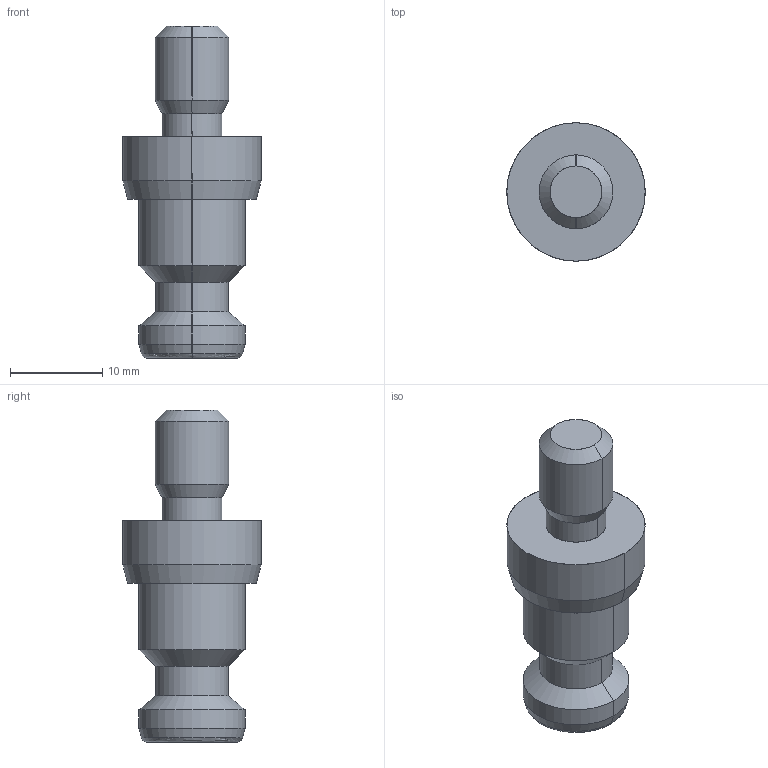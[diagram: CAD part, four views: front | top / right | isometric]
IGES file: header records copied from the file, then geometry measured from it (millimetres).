
Start section: SolidWorks IGES file using analytic representation for surfaces
Global section: file name: X:\14_SW2023(ver2023)\09_2025-03新製品(WHS)\OTC\＠データ\qlpdw85-m8s\QLPDW85-M8S.IGS; native system: SolidWorks 2023; preprocessor: SolidWorks 2023; author: yozawa; date: 241108.152508; units: millimetre
Bounding box: 15 x 15 x 36 mm (x, y, z)
Surface area: 1575.1 mm2 (no closed solid volume)
Topology: 0 solids, 0 shells, 37 faces, 332 edges, 332 vertices
Faces by surface type: revolution 24, bspline 13
